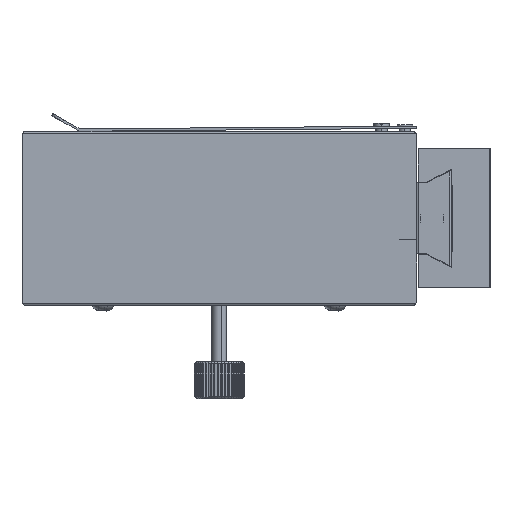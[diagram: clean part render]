
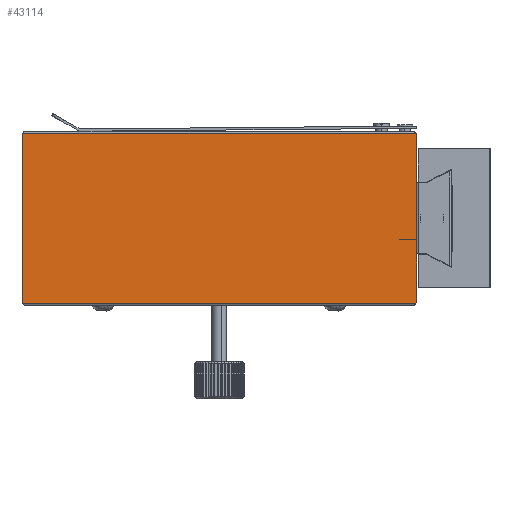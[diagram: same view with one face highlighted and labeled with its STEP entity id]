
A CAD part, left-side view. The second image highlights one B-rep face of the part: STEP entity #43114.
In plain terms, the highlighted planar face has unit normal (-1, 0, 0).
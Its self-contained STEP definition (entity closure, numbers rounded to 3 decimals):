
#502 = DIRECTION ( 'NONE',  ( 0., 0., 1. ) ) ;
#750 = AXIS2_PLACEMENT_3D ( 'NONE', #51526, #33388, #37125 ) ;
#1437 = DIRECTION ( 'NONE',  ( 0., 0., 1. ) ) ;
#1624 = VERTEX_POINT ( 'NONE', #15715 ) ;
#3281 = CARTESIAN_POINT ( 'NONE',  ( -154.769, -31.747, -57.169 ) ) ;
#3289 = CARTESIAN_POINT ( 'NONE',  ( -154.769, 70.119, -57.669 ) ) ;
#3726 = CARTESIAN_POINT ( 'NONE',  ( -154.769, 70.253, -57.669 ) ) ;
#4533 = EDGE_CURVE ( 'NONE', #21297, #55890, #56689, .T. ) ;
#5717 = CIRCLE ( 'NONE', #37871, 1. ) ;
#5810 = VERTEX_POINT ( 'NONE', #15418 ) ;
#6242 = VECTOR ( 'NONE', #10130, 1000. ) ;
#7043 = LINE ( 'NONE', #3281, #9326 ) ;
#8005 = DIRECTION ( 'NONE',  ( 0., 0., 1. ) ) ;
#9243 = ORIENTED_EDGE ( 'NONE', *, *, #34976, .T. ) ;
#9326 = VECTOR ( 'NONE', #29202, 1000. ) ;
#9681 = ORIENTED_EDGE ( 'NONE', *, *, #52977, .T. ) ;
#9722 = ORIENTED_EDGE ( 'NONE', *, *, #28236, .T. ) ;
#10130 = DIRECTION ( 'NONE',  ( 0., 0., -1. ) ) ;
#10242 = CIRCLE ( 'NONE', #37779, 1. ) ;
#11442 = DIRECTION ( 'NONE',  ( 0., 0., 1. ) ) ;
#12363 = ORIENTED_EDGE ( 'NONE', *, *, #35000, .F. ) ;
#13141 = CIRCLE ( 'NONE', #22338, 1. ) ;
#14439 = LINE ( 'NONE', #19038, #6242 ) ;
#15418 = CARTESIAN_POINT ( 'NONE',  ( -154.769, -31.747, -58.169 ) ) ;
#15715 = CARTESIAN_POINT ( 'NONE',  ( -154.769, 70.119, -101.669 ) ) ;
#16031 = CARTESIAN_POINT ( 'NONE',  ( -154.769, 69.253, -58.169 ) ) ;
#16639 = AXIS2_PLACEMENT_3D ( 'NONE', #16031, #37613, #11442 ) ;
#18659 = VECTOR ( 'NONE', #502, 1000. ) ;
#19011 = VECTOR ( 'NONE', #21302, 1000. ) ;
#19038 = CARTESIAN_POINT ( 'NONE',  ( -154.769, -31.747, -57.169 ) ) ;
#19729 = ORIENTED_EDGE ( 'NONE', *, *, #27741, .T. ) ;
#20844 = ORIENTED_EDGE ( 'NONE', *, *, #22393, .F. ) ;
#21297 = VERTEX_POINT ( 'NONE', #55759 ) ;
#21302 = DIRECTION ( 'NONE',  ( 0., 1., 0. ) ) ;
#21878 = CARTESIAN_POINT ( 'NONE',  ( -154.769, 70.253, -58.169 ) ) ;
#22338 = AXIS2_PLACEMENT_3D ( 'NONE', #24498, #34205, #8005 ) ;
#22393 = EDGE_CURVE ( 'NONE', #46108, #46658, #14439, .T. ) ;
#24498 = CARTESIAN_POINT ( 'NONE',  ( -154.769, 69.253, -101.169 ) ) ;
#25184 = VECTOR ( 'NONE', #32577, 1000. ) ;
#25324 = FACE_OUTER_BOUND ( 'NONE', #44168, .T. ) ;
#26052 = DIRECTION ( 'NONE',  ( 0., 0., 1. ) ) ;
#26717 = LINE ( 'NONE', #39937, #18659 ) ;
#27741 = EDGE_CURVE ( 'NONE', #55890, #37129, #30406, .T. ) ;
#28236 = EDGE_CURVE ( 'NONE', #1624, #46843, #55687, .T. ) ;
#28294 = EDGE_CURVE ( 'NONE', #5810, #30985, #7043, .T. ) ;
#29202 = DIRECTION ( 'NONE',  ( 0., 0., -1. ) ) ;
#30406 = CIRCLE ( 'NONE', #16639, 1. ) ;
#30690 = EDGE_CURVE ( 'NONE', #5810, #21297, #5717, .T. ) ;
#30985 = VERTEX_POINT ( 'NONE', #41252 ) ;
#31200 = CARTESIAN_POINT ( 'NONE',  ( -154.769, -30.747, -58.169 ) ) ;
#32227 = DIRECTION ( 'NONE',  ( -1., 0., 0. ) ) ;
#32577 = DIRECTION ( 'NONE',  ( 0., 0., 1. ) ) ;
#33388 = DIRECTION ( 'NONE',  ( -1., 0., 0. ) ) ;
#33646 = VERTEX_POINT ( 'NONE', #55457 ) ;
#33796 = DIRECTION ( 'NONE',  ( 0., -1., 0. ) ) ;
#34205 = DIRECTION ( 'NONE',  ( -1., 0., 0. ) ) ;
#34947 = ORIENTED_EDGE ( 'NONE', *, *, #4533, .T. ) ;
#34976 = EDGE_CURVE ( 'NONE', #33646, #1624, #13141, .T. ) ;
#35000 = EDGE_CURVE ( 'NONE', #33646, #37129, #26717, .T. ) ;
#35786 = ORIENTED_EDGE ( 'NONE', *, *, #30690, .T. ) ;
#36584 = EDGE_CURVE ( 'NONE', #46108, #30985, #45276, .T. ) ;
#37125 = DIRECTION ( 'NONE',  ( 0., 0., 1. ) ) ;
#37129 = VERTEX_POINT ( 'NONE', #21878 ) ;
#37613 = DIRECTION ( 'NONE',  ( -1., 0., 0. ) ) ;
#37779 = AXIS2_PLACEMENT_3D ( 'NONE', #44918, #32227, #1437 ) ;
#37871 = AXIS2_PLACEMENT_3D ( 'NONE', #31200, #39262, #26052 ) ;
#39262 = DIRECTION ( 'NONE',  ( -1., 0., 0. ) ) ;
#39937 = CARTESIAN_POINT ( 'NONE',  ( -154.769, 70.253, -57.169 ) ) ;
#41252 = CARTESIAN_POINT ( 'NONE',  ( -154.769, -31.747, -70.469 ) ) ;
#41874 = CARTESIAN_POINT ( 'NONE',  ( -154.769, -31.747, -101.669 ) ) ;
#43114 = ADVANCED_FACE ( 'NONE', ( #25324 ), #50680, .T. ) ;
#43311 = VECTOR ( 'NONE', #33796, 1000. ) ;
#44168 = EDGE_LOOP ( 'NONE', ( #9722, #9681, #20844, #48126, #55043, #35786, #34947, #19729, #12363, #9243 ) ) ;
#44918 = CARTESIAN_POINT ( 'NONE',  ( -154.769, -30.747, -101.169 ) ) ;
#45025 = CARTESIAN_POINT ( 'NONE',  ( -154.769, -31.747, -88.869 ) ) ;
#45276 = LINE ( 'NONE', #45546, #25184 ) ;
#45546 = CARTESIAN_POINT ( 'NONE',  ( -154.769, -31.747, -79.669 ) ) ;
#46108 = VERTEX_POINT ( 'NONE', #45025 ) ;
#46658 = VERTEX_POINT ( 'NONE', #49844 ) ;
#46843 = VERTEX_POINT ( 'NONE', #49561 ) ;
#48126 = ORIENTED_EDGE ( 'NONE', *, *, #36584, .T. ) ;
#49561 = CARTESIAN_POINT ( 'NONE',  ( -154.769, -31.613, -101.669 ) ) ;
#49844 = CARTESIAN_POINT ( 'NONE',  ( -154.769, -31.747, -101.169 ) ) ;
#50680 = PLANE ( 'NONE',  #750 ) ;
#51526 = CARTESIAN_POINT ( 'NONE',  ( -154.769, 19.253, -79.669 ) ) ;
#52977 = EDGE_CURVE ( 'NONE', #46843, #46658, #10242, .T. ) ;
#55043 = ORIENTED_EDGE ( 'NONE', *, *, #28294, .F. ) ;
#55457 = CARTESIAN_POINT ( 'NONE',  ( -154.769, 70.253, -101.169 ) ) ;
#55687 = LINE ( 'NONE', #41874, #43311 ) ;
#55759 = CARTESIAN_POINT ( 'NONE',  ( -154.769, -31.613, -57.669 ) ) ;
#55890 = VERTEX_POINT ( 'NONE', #3289 ) ;
#56689 = LINE ( 'NONE', #3726, #19011 ) ;
